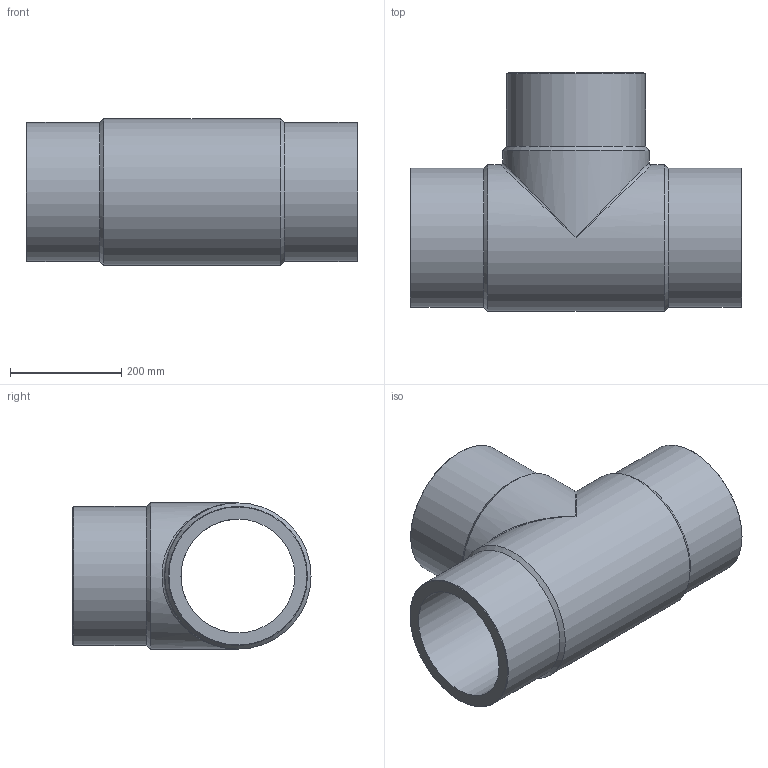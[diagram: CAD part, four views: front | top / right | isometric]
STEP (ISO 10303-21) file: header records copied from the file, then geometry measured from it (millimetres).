
FILE_DESCRIPTION(/* description */ ('Unknown'),/* implementation_level */ '2;1');
FILE_NAME(/* name */ 'TP250C',/* time_stamp */ '2021-08-06T10:52:03+02:00',/* author */ ('Unknown'),/* organization */ ('Unknown'),/* preprocessor_version */ 'ST-DEVELOPER v16.7',/* originating_system */ 'Solid Edge',/* authorisation */ 'Unknown');
FILE_SCHEMA (('AUTOMOTIVE_DESIGN {1 0 10303 214 3 1 1}'));
Length unit declared in the file: millimetre
Products named in the file (1): TP250C
Bounding box: 596 x 428 x 263 mm (x, y, z)
Volume: 13800046.1 mm3; surface area: 1124808.9 mm2
Topology: 1 solids, 1 shells, 18 faces, 44 edges, 23 vertices
Faces by surface type: cylinder 7, cone 6, plane 3, bspline 2
Full cylindrical faces by diameter (mm): 204.6 x2, 250 x3, 263 x2
Entity records: 528 total; most frequent: CARTESIAN_POINT 171, DIRECTION 76, ORIENTED_EDGE 42, AXIS2_PLACEMENT_3D 38, EDGE_LOOP 36, FACE_BOUND 36, EDGE_CURVE 21, VERTEX_POINT 19
